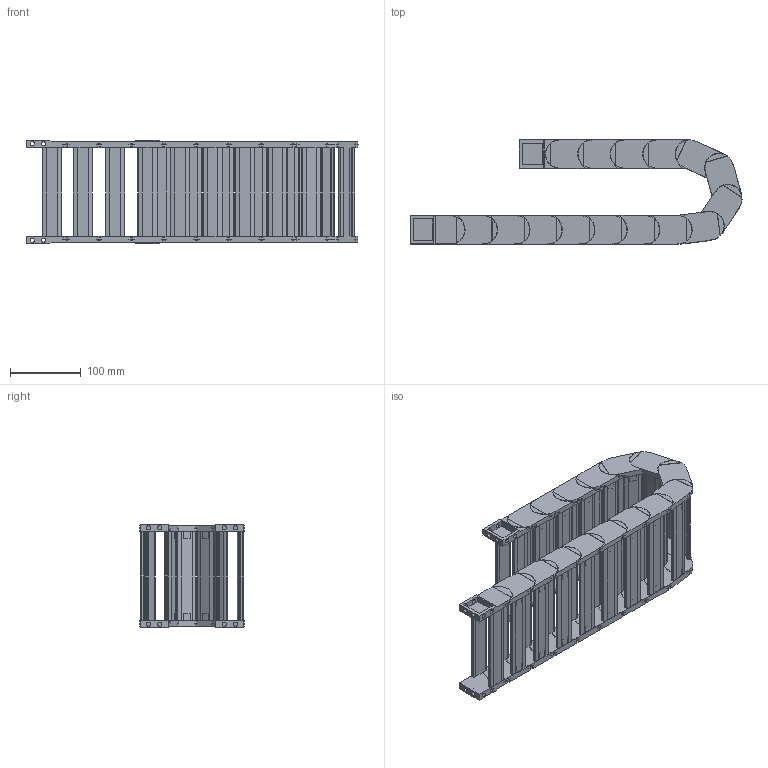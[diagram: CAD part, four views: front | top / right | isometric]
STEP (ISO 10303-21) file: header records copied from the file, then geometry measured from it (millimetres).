
FILE_DESCRIPTION((''),'2;1');
FILE_NAME('HD25-R55-ZPT_ASM','2022-09-04T16:10:59',('admin'),(''),'CREO PARAMETRIC BY PTC INC, 2021164','CREO PARAMETRIC BY PTC INC, 2021164','');
FILE_SCHEMA(('CONFIG_CONTROL_DESIGN','GEOMETRIC_VALIDATION_PROPERTIES_MIM'));
Length unit declared in the file: millimetre
Products named in the file (6): HD30; 25XL-QSYP-103; HD25_ASM; H25-T1; H25-T2; HD25-R55-ZPT_ASM
Assembly tree (21 placements, depth 3):
  HD25-R55-ZPT_ASM
    HD25_ASM  x15
      HD30
      25XL-QSYP-103
    H25-T1
    H25-T2
    25XL-QSYP-103  x2
Bounding box: 470.59 x 148.37 x 146.2 mm (x, y, z)
Volume: 1103732 mm3; surface area: 572122.3 mm2
Topology: 68 solids, 98 shells, 1726 faces, 4375 edges, 2917 vertices
Faces by surface type: plane 1286, cylinder 380, torus 60
Entity records: 10721 total; most frequent: CARTESIAN_POINT 1520, DIRECTION 1466, ORIENTED_EDGE 1406, EDGE_CURVE 703, VECTOR 522, LINE 522, AXIS2_PLACEMENT_3D 472, VERTEX_POINT 469
